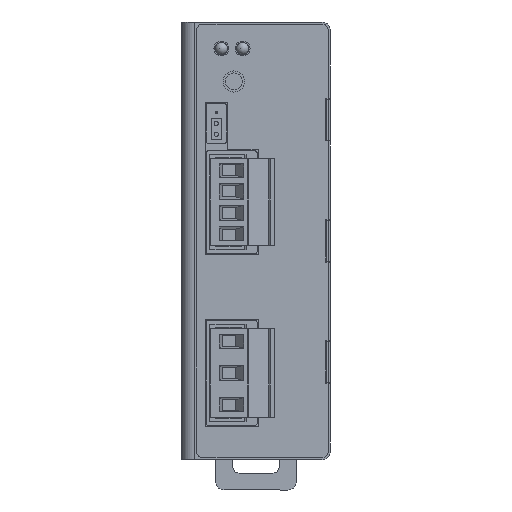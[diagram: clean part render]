
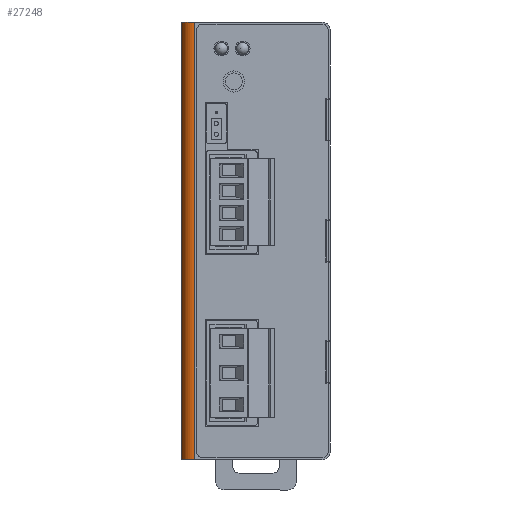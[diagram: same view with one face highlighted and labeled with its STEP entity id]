
A CAD part, left-side view. The second image highlights one B-rep face of the part: STEP entity #27248.
In plain terms, the highlighted cylindrical face has radius 3 mm (diameter 6 mm), a partial arc.
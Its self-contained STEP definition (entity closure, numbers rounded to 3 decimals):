
#3266 = LINE ( 'NONE', #41692, #69722 ) ;
#5770 = VERTEX_POINT ( 'NONE', #10403 ) ;
#5882 = DIRECTION ( 'NONE',  ( 0., 1., 0. ) ) ;
#7003 = EDGE_CURVE ( 'NONE', #73970, #56564, #30195, .T. ) ;
#9394 = DIRECTION ( 'NONE',  ( 0., 1., 0. ) ) ;
#10403 = CARTESIAN_POINT ( 'NONE',  ( -52., 14.5, 51.5 ) ) ;
#10731 = CARTESIAN_POINT ( 'NONE',  ( -49., 17.5, 51.5 ) ) ;
#14411 = VERTEX_POINT ( 'NONE', #10731 ) ;
#16754 = CYLINDRICAL_SURFACE ( 'NONE', #79625, 3. ) ;
#17064 = ORIENTED_EDGE ( 'NONE', *, *, #77159, .T. ) ;
#22356 = ORIENTED_EDGE ( 'NONE', *, *, #50625, .T. ) ;
#27248 = ADVANCED_FACE ( 'NONE', ( #58330 ), #16754, .T. ) ;
#30195 = CIRCLE ( 'NONE', #84042, 3. ) ;
#31058 = VECTOR ( 'NONE', #75419, 1000. ) ;
#35169 = CARTESIAN_POINT ( 'NONE',  ( -49., 14.5, -51.5 ) ) ;
#38801 = CARTESIAN_POINT ( 'NONE',  ( -49., 17.5, -51.5 ) ) ;
#39076 = AXIS2_PLACEMENT_3D ( 'NONE', #85347, #45668, #5882 ) ;
#41692 = CARTESIAN_POINT ( 'NONE',  ( -49., 17.5, 51.5 ) ) ;
#41863 = DIRECTION ( 'NONE',  ( 0., 1., 0. ) ) ;
#45668 = DIRECTION ( 'NONE',  ( 0., 0., 1. ) ) ;
#49148 = CARTESIAN_POINT ( 'NONE',  ( -49., 14.5, 51.5 ) ) ;
#50625 = EDGE_CURVE ( 'NONE', #56564, #5770, #83936, .T. ) ;
#50733 = CARTESIAN_POINT ( 'NONE',  ( -52., 14.5, -51.5 ) ) ;
#51512 = ORIENTED_EDGE ( 'NONE', *, *, #66980, .F. ) ;
#56564 = VERTEX_POINT ( 'NONE', #50733 ) ;
#58330 = FACE_OUTER_BOUND ( 'NONE', #63138, .T. ) ;
#60853 = ORIENTED_EDGE ( 'NONE', *, *, #7003, .T. ) ;
#61701 = DIRECTION ( 'NONE',  ( 0., 0., -1. ) ) ;
#62219 = DIRECTION ( 'NONE',  ( 0., 0., -1. ) ) ;
#63138 = EDGE_LOOP ( 'NONE', ( #60853, #22356, #51512, #17064 ) ) ;
#66980 = EDGE_CURVE ( 'NONE', #14411, #5770, #76530, .T. ) ;
#69722 = VECTOR ( 'NONE', #61701, 1000. ) ;
#73970 = VERTEX_POINT ( 'NONE', #38801 ) ;
#75132 = CARTESIAN_POINT ( 'NONE',  ( -52., 14.5, 51.5 ) ) ;
#75419 = DIRECTION ( 'NONE',  ( 0., 0., 1. ) ) ;
#76530 = CIRCLE ( 'NONE', #39076, 3. ) ;
#77159 = EDGE_CURVE ( 'NONE', #14411, #73970, #3266, .T. ) ;
#79625 = AXIS2_PLACEMENT_3D ( 'NONE', #49148, #62219, #9394 ) ;
#81529 = DIRECTION ( 'NONE',  ( 0., 0., 1. ) ) ;
#83936 = LINE ( 'NONE', #75132, #31058 ) ;
#84042 = AXIS2_PLACEMENT_3D ( 'NONE', #35169, #81529, #41863 ) ;
#85347 = CARTESIAN_POINT ( 'NONE',  ( -49., 14.5, 51.5 ) ) ;
